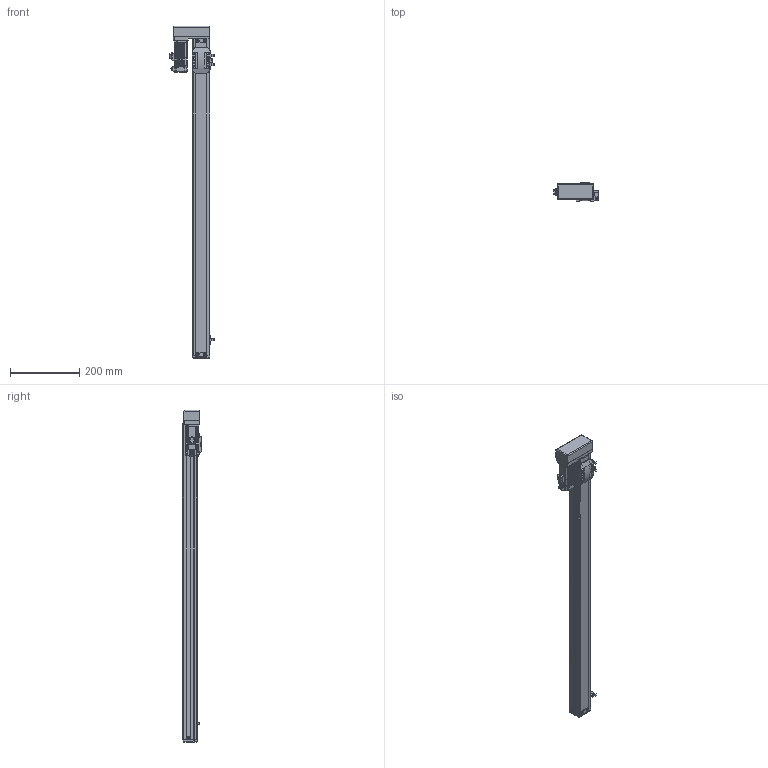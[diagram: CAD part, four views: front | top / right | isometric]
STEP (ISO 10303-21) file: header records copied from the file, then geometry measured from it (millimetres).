
FILE_DESCRIPTION (( 'STEP AP214' ), '1' );
FILE_NAME ('YTH5-800-BL-P10.STEP', '2017-03-18T08:46:02', ( 'Windows' ), ( 'Microsoft' ), 'SwSTEP 2.0', 'SolidWorks 2013', '' );
FILE_SCHEMA (( 'AUTOMOTIVE_DESIGN' ));
Length unit declared in the file: millimetre
Products named in the file (8): YTH5-BC-005 賑釱; YTH5-BL-006-P10 萇儂假蚾啣; X-XG-OMRON 換覜ん; YTH5-BL-002 眻盄絳寢; YTH5-800-BL-P10; MSMD01PC_P10; 内六角圆头带帽螺钉M3×8; GB／T70．1-2000内六角圆柱头螺钉M4×12
Assembly tree (22 placements, depth 2):
  YTH5-800-BL-P10
    YTH5-BL-002 眻盄絳寢
    X-XG-OMRON 換覜ん  x3
    YTH5-BL-006-P10 萇儂假蚾啣
    YTH5-BC-005 賑釱
    GB／T70．1-2000内六角圆柱头螺钉M4×12  x6
    内六角圆头带帽螺钉M3×8  x9
    MSMD01PC_P10
Bounding box: 129.5 x 54 x 958 mm (x, y, z)
Volume: 2183454 mm3; surface area: 282985.3 mm2
Topology: 24 solids, 24 shells, 1890 faces, 4888 edges, 3194 vertices
Faces by surface type: plane 1175, cylinder 522, bspline 131, cone 34, torus 24, sphere 4
Entity records: 47700 total; most frequent: CARTESIAN_POINT 11610, ORIENTED_EDGE 6882, DIRECTION 6658, EDGE_CURVE 3441, LINE 2396, VECTOR 2396, VERTEX_POINT 2252, AXIS2_PLACEMENT_3D 2131
